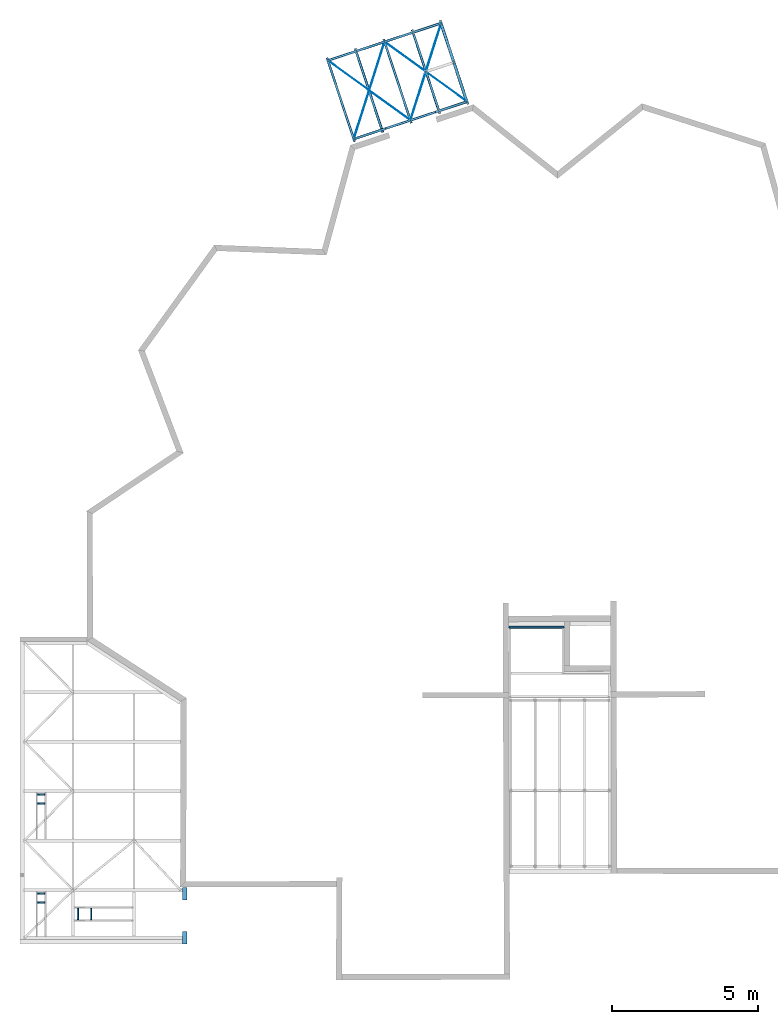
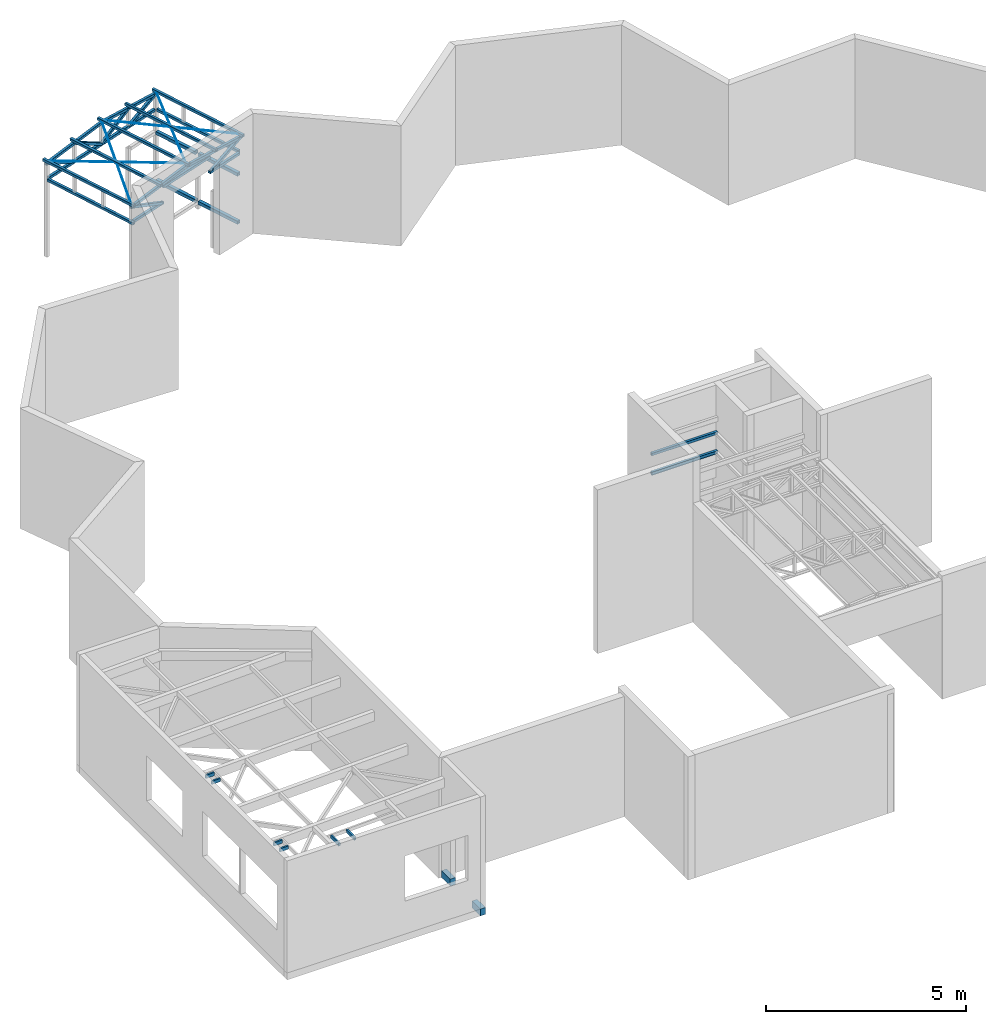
# One storey, part 5 of 9: 40 beams, 40 elements without a shape of their own.
"""IFC2X3 building model written with IfcOpenShell, lengths in millimetres."""

from ifc_helpers import new_model, si_unit, frame, origin_with_axes, origin_2d_with_axis, place, context, subcontext, project, spatial, rectangle, hollow_rectangle, circle, u_section, extrude, material, type_object, element, aggregate, save


model = new_model("IFC2X3")

# Units and contexts
model_context = context("Model", 3, precision=1e-05, world=origin_with_axes())
body_context = subcontext(model_context, "Body", "Model", "MODEL_VIEW")
ifc_project = project(units=[si_unit("LENGTHUNIT", "METRE", prefix="MILLI"), si_unit("AREAUNIT", "SQUARE_METRE"), si_unit("VOLUMEUNIT", "CUBIC_METRE"), si_unit("MASSUNIT", "GRAM", prefix="KILO"), si_unit("TIMEUNIT", "SECOND"), si_unit("PLANEANGLEUNIT", "RADIAN"), si_unit("SOLIDANGLEUNIT", "STERADIAN"), si_unit("THERMODYNAMICTEMPERATUREUNIT", "DEGREE_CELSIUS"), si_unit("LUMINOUSINTENSITYUNIT", "LUMEN")], contexts=[model_context])

# Site, building, storey
site_placement = place(None, origin_with_axes())
site = spatial("IfcSite", under=ifc_project, at=site_placement, Name="01_26-05_PRO_BOULAZAC_CMA-FORMATION", CompositionType="ELEMENT")
building_placement = place(site_placement, origin_with_axes())
building = spatial("IfcBuilding", under=site, at=building_placement, Name="Undefined", CompositionType="ELEMENT")
storey_placement = place(building_placement, origin_with_axes())
storey = spatial("IfcBuildingStorey", under=building, at=storey_placement, Name="Undefined", CompositionType="ELEMENT", Elevation=0.0)

# Assembly, beam
assembly_1_placement = place(storey_placement, origin_with_axes())
assembly_1 = element("IfcElementAssembly", 1, at=assembly_1_placement, inside=storey, Name="OMEGA", AssemblyPlace="NOTDEFINED", PredefinedType="NOTDEFINED")
ifc_material_1 = material(Name="STEEL/S235JR")
beam_type_1 = type_object("IfcBeamType", Name="C40*30*2", PredefinedType="NOTDEFINED")
beam_1_placement = place(assembly_1_placement, frame((19186.8497008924, 16270.0000000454, 2955.0), z_axis=(0.0, 1.0, 0.0), x_axis=(-1.0, 0.0, 0.0)))
beam_1 = element("IfcBeam", 2, at=beam_1_placement, type_object=beam_type_1, material=ifc_material_1, Name="OMEGA", context=body_context, shape_type="SweptSolid", body=[
    extrude(u_section(Depth=40.0, FlangeWidth=30.0, WebThickness=2.0, FlangeThickness=2.0, FilletRadius=3.0, at=origin_2d_with_axis()), frame((1900.00000003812, 0.0, 0.0), z_axis=(-1.0, 0.0, 0.0), x_axis=(0.0, -1.0, 0.0)), (0.0, 0.0, 1.0), 1900.0),
])
aggregate(assembly_1, [beam_1])

assembly_2_placement = place(storey_placement, origin_with_axes())
assembly_2 = element("IfcElementAssembly", 3, at=assembly_2_placement, inside=storey, Name="TREILLIS", AssemblyPlace="NOTDEFINED", PredefinedType="NOTDEFINED")
beam_type_2 = type_object("IfcBeamType", Name="TUBE-C-80*80*3", PredefinedType="NOTDEFINED")
beam_2_placement = place(assembly_2_placement, frame((13074.9501980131, 33411.6666378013, 2360.00000000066), z_axis=(0.0, 0.0, -1.0), x_axis=(-0.949627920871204, -0.313379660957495, 0.0)))
beam_2 = element("IfcBeam", 4, at=beam_2_placement, type_object=beam_type_2, material=ifc_material_1, Name="TREILLIS", context=body_context, shape_type="SweptSolid", body=[
    extrude(hollow_rectangle(XDim=80.0, YDim=80.0, WallThickness=3.0, InnerFilletRadius=3.0, OuterFilletRadius=6.0, at=origin_2d_with_axis()), frame((1114.99999941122, 0.0, 4.54747350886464e-13), z_axis=(-1.0, 0.0, 0.0), x_axis=(0.0, -1.0, 0.0)), (0.0, 0.0, 1.0), 1115.0),
])
aggregate(assembly_2, [beam_2])

assembly_3_placement = place(storey_placement, origin_with_axes())
assembly_3 = element("IfcElementAssembly", 5, at=assembly_3_placement, inside=storey, Name="TREILLIS", AssemblyPlace="NOTDEFINED", PredefinedType="NOTDEFINED")
beam_3_placement = place(assembly_3_placement, frame((14736.7990595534, 33960.081044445, 2840.00000000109), z_axis=(0.0, 0.0, -1.0), x_axis=(-0.949627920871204, -0.313379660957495, 0.0)))
beam_3 = element("IfcBeam", 6, at=beam_3_placement, type_object=beam_type_2, material=ifc_material_1, Name="TREILLIS", context=body_context, shape_type="SweptSolid", body=[
    extrude(hollow_rectangle(XDim=80.0, YDim=80.0, WallThickness=3.0, InnerFilletRadius=3.0, OuterFilletRadius=6.0, at=origin_2d_with_axis()), frame((1749.99999999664, 3.73512332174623e-12, 0.0), z_axis=(-1.0, 0.0, 0.0), x_axis=(0.0, -1.0, 0.0)), (0.0, 0.0, 1.0), 1750.0),
])
aggregate(assembly_3, [beam_3])

assembly_4_placement = place(storey_placement, origin_with_axes())
assembly_4 = element("IfcElementAssembly", 7, at=assembly_4_placement, inside=storey, Name="LISSE", AssemblyPlace="NOTDEFINED", PredefinedType="NOTDEFINED")
beam_4_placement = place(assembly_4_placement, frame((19186.8497008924, 16270.0000000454, 3010.0), z_axis=(0.0, 1.0, 0.0), x_axis=(-1.0, 0.0, 0.0)))
beam_4 = element("IfcBeam", 8, at=beam_4_placement, type_object=beam_type_2, material=ifc_material_1, Name="LISSE", context=body_context, shape_type="SweptSolid", body=[
    extrude(hollow_rectangle(XDim=80.0, YDim=80.0, WallThickness=3.0, InnerFilletRadius=3.0, OuterFilletRadius=6.0, at=origin_2d_with_axis()), frame((1900.00000003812, 0.0, 0.0), z_axis=(-1.0, 0.0, 0.0), x_axis=(0.0, -1.0, 0.0)), (0.0, 0.0, 1.0), 1900.0),
])
aggregate(assembly_4, [beam_4])

assembly_5_placement = place(storey_placement, origin_with_axes())
assembly_5 = element("IfcElementAssembly", 9, at=assembly_5_placement, inside=storey, Name="LISSE", AssemblyPlace="NOTDEFINED", PredefinedType="NOTDEFINED")
beam_5_placement = place(assembly_5_placement, frame((19186.8497008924, 16270.0000000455, 3590.0), z_axis=(0.0, 1.0, 0.0), x_axis=(-1.0, 0.0, 0.0)))
beam_5 = element("IfcBeam", 10, at=beam_5_placement, type_object=beam_type_2, material=ifc_material_1, Name="LISSE", context=body_context, shape_type="SweptSolid", body=[
    extrude(hollow_rectangle(XDim=80.0, YDim=80.0, WallThickness=3.0, InnerFilletRadius=3.0, OuterFilletRadius=6.0, at=origin_2d_with_axis()), frame((1900.00000003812, 0.0, 0.0), z_axis=(-1.0, 0.0, 0.0), x_axis=(0.0, -1.0, 0.0)), (0.0, 0.0, 1.0), 1900.0),
])
aggregate(assembly_5, [beam_5])

assembly_6_placement = place(storey_placement, origin_with_axes())
assembly_6 = element("IfcElementAssembly", 11, at=assembly_6_placement, inside=storey, AssemblyPlace="NOTDEFINED", PredefinedType="NOTDEFINED")
beam_6_placement = place(assembly_6_placement, frame((13962.2437734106, 36800.4252215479, 3000.0773726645), z_axis=(0.0827655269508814, 0.0273128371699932, 0.996194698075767), x_axis=(0.313379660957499, -0.949627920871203, 0.0)))
beam_6 = element("IfcBeam", 12, at=beam_6_placement, type_object=beam_type_2, material=ifc_material_1, Name="PANNE", context=body_context, shape_type="SweptSolid", body=[
    extrude(hollow_rectangle(XDim=80.0, YDim=80.0, WallThickness=3.0, InnerFilletRadius=3.0, OuterFilletRadius=6.0, at=origin_2d_with_axis()), frame((3039.99999977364, -3.63797880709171e-12, 1.05471187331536e-14), z_axis=(-1.0, 0.0, 0.0), x_axis=(0.0, -1.0, 0.0)), (0.0, 0.0, 1.0), 3040.0),
])
aggregate(assembly_6, [beam_6])

assembly_7_placement = place(storey_placement, origin_with_axes())
assembly_7 = element("IfcElementAssembly", 13, at=assembly_7_placement, inside=storey, AssemblyPlace="NOTDEFINED", PredefinedType="NOTDEFINED")
beam_7_placement = place(assembly_7_placement, frame((12006.8330787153, 36155.1346357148, 3000.07737264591), z_axis=(-0.0827655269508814, -0.0273128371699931, 0.996194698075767), x_axis=(0.313379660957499, -0.949627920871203, 0.0)))
beam_7 = element("IfcBeam", 14, at=beam_7_placement, type_object=beam_type_2, material=ifc_material_1, Name="PANNE", context=body_context, shape_type="SweptSolid", body=[
    extrude(hollow_rectangle(XDim=80.0, YDim=80.0, WallThickness=3.0, InnerFilletRadius=3.0, OuterFilletRadius=6.0, at=origin_2d_with_axis()), frame((3039.99999977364, -3.63797880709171e-12, 1.05471187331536e-14), z_axis=(-1.0, 0.0, 0.0), x_axis=(0.0, -1.0, 0.0)), (0.0, 0.0, 1.0), 3040.0),
])
aggregate(assembly_7, [beam_7])

assembly_8_placement = place(storey_placement, origin_with_axes())
assembly_8 = element("IfcElementAssembly", 15, at=assembly_8_placement, inside=storey, Name="LISSE", AssemblyPlace="NOTDEFINED", PredefinedType="NOTDEFINED")
beam_8_placement = place(assembly_8_placement, frame((11084.8081377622, 35692.9074344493, 2360.00000000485), z_axis=(0.0, 0.0, 1.0), x_axis=(0.313379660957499, -0.949627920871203, 0.0)))
beam_8 = element("IfcBeam", 16, at=beam_8_placement, type_object=beam_type_2, material=ifc_material_1, Name="LISSE", context=body_context, shape_type="SweptSolid", body=[
    extrude(hollow_rectangle(XDim=80.0, YDim=80.0, WallThickness=3.0, InnerFilletRadius=3.0, OuterFilletRadius=6.0, at=origin_2d_with_axis()), frame((2870.00000005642, 0.0, 4.54747350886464e-13), z_axis=(-1.0, 0.0, 0.0), x_axis=(0.0, -1.0, 0.0)), (0.0, 0.0, 1.0), 2870.0),
])
aggregate(assembly_8, [beam_8])

assembly_9_placement = place(storey_placement, origin_with_axes())
assembly_9 = element("IfcElementAssembly", 17, at=assembly_9_placement, inside=storey, Name="LISSE", AssemblyPlace="NOTDEFINED", PredefinedType="NOTDEFINED")
beam_9_placement = place(assembly_9_placement, frame((14978.2826130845, 36977.7640453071, 2359.99999999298), z_axis=(0.0, 0.0, 1.0), x_axis=(0.313379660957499, -0.949627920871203, 0.0)))
beam_9 = element("IfcBeam", 18, at=beam_9_placement, type_object=beam_type_2, material=ifc_material_1, Name="LISSE", context=body_context, shape_type="SweptSolid", body=[
    extrude(hollow_rectangle(XDim=80.0, YDim=80.0, WallThickness=3.0, InnerFilletRadius=3.0, OuterFilletRadius=6.0, at=origin_2d_with_axis()), frame((2739.99999997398, 3.63797880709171e-12, 0.0), z_axis=(-1.0, 0.0, 0.0), x_axis=(0.0, -1.0, 0.0)), (0.0, 0.0, 1.0), 2740.0),
])
aggregate(assembly_9, [beam_9])

assembly_10_placement = place(storey_placement, origin_with_axes())
assembly_10 = element("IfcElementAssembly", 19, at=assembly_10_placement, inside=storey, AssemblyPlace="NOTDEFINED", PredefinedType="NOTDEFINED")
beam_10_placement = place(assembly_10_placement, frame((11037.801188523, 35835.3516230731, 2907.1486927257), z_axis=(0.0, 0.0, 1.0), x_axis=(0.313379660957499, -0.949627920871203, 0.0)))
beam_10 = element("IfcBeam", 20, at=beam_10_placement, type_object=beam_type_2, material=ifc_material_1, Name="PANNE", context=body_context, shape_type="SweptSolid", body=[
    extrude(hollow_rectangle(XDim=80.0, YDim=80.0, WallThickness=3.0, InnerFilletRadius=3.0, OuterFilletRadius=6.0, at=origin_2d_with_axis()), frame((3039.99999977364, -3.63797880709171e-12, 1.05471187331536e-14), z_axis=(-1.0, 0.0, 0.0), x_axis=(0.0, -1.0, 0.0)), (0.0, 0.0, 1.0), 3040.0),
])
aggregate(assembly_10, [beam_10])

assembly_11_placement = place(storey_placement, origin_with_axes())
assembly_11 = element("IfcElementAssembly", 21, at=assembly_11_placement, inside=storey, AssemblyPlace="NOTDEFINED", PredefinedType="NOTDEFINED")
beam_11_placement = place(assembly_11_placement, frame((14931.2756637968, 37120.2082339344, 2907.14869271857), z_axis=(0.0, 0.0, 1.0), x_axis=(0.313379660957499, -0.949627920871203, 0.0)))
beam_11 = element("IfcBeam", 22, at=beam_11_placement, type_object=beam_type_2, material=ifc_material_1, Name="PANNE", context=body_context, shape_type="SweptSolid", body=[
    extrude(hollow_rectangle(XDim=80.0, YDim=80.0, WallThickness=3.0, InnerFilletRadius=3.0, OuterFilletRadius=6.0, at=origin_2d_with_axis()), frame((3039.99999977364, -3.63797880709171e-12, 1.05471187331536e-14), z_axis=(-1.0, 0.0, 0.0), x_axis=(0.0, -1.0, 0.0)), (0.0, 0.0, 1.0), 3040.0),
])
aggregate(assembly_11, [beam_11])

assembly_12_placement = place(storey_placement, origin_with_axes())
assembly_12 = element("IfcElementAssembly", 23, at=assembly_12_placement, inside=storey, AssemblyPlace="NOTDEFINED", PredefinedType="NOTDEFINED")
beam_12_placement = place(assembly_12_placement, frame((12984.5384261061, 36477.779928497, 3089.9999999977), z_axis=(0.0, 0.0, 1.0), x_axis=(0.313379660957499, -0.949627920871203, 0.0)))
beam_12 = element("IfcBeam", 24, at=beam_12_placement, type_object=beam_type_2, material=ifc_material_1, Name="PANNE", context=body_context, shape_type="SweptSolid", body=[
    extrude(hollow_rectangle(XDim=80.0, YDim=80.0, WallThickness=3.0, InnerFilletRadius=3.0, OuterFilletRadius=6.0, at=origin_2d_with_axis()), frame((3039.99999977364, -3.63797880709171e-12, 1.05471187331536e-14), z_axis=(-1.0, 0.0, 0.0), x_axis=(0.0, -1.0, 0.0)), (0.0, 0.0, 1.0), 3040.0),
])
aggregate(assembly_12, [beam_12])

assembly_13_placement = place(storey_placement, origin_with_axes())
assembly_13 = element("IfcElementAssembly", 25, at=assembly_13_placement, inside=storey, Name="TREILLIS", AssemblyPlace="NOTDEFINED", PredefinedType="NOTDEFINED")
beam_13_placement = place(assembly_13_placement, frame((11968.6336710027, 33046.5793324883, 2831.37033241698), z_axis=(0.366979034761, 0.12110402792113, 0.922312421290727), x_axis=(0.87585362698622, 0.289033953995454, -0.38644507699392)))
beam_13 = element("IfcBeam", 26, at=beam_13_placement, type_object=beam_type_2, material=ifc_material_1, Name="TREILLIS", context=body_context, shape_type="SweptSolid", body=[
    extrude(hollow_rectangle(XDim=80.0, YDim=80.0, WallThickness=3.0, InnerFilletRadius=3.0, OuterFilletRadius=6.0, at=origin_2d_with_axis()), frame((1219.76021882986, -3.66547297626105e-12, -1.81898940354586e-12), z_axis=(-1.0, 0.0, 0.0), x_axis=(0.0, -1.0, 0.0)), (0.0, 0.0, 1.0), 1219.76),
])
aggregate(assembly_13, [beam_13])

assembly_14_placement = place(storey_placement, origin_with_axes())
assembly_14 = element("IfcElementAssembly", 27, at=assembly_14_placement, inside=storey, Name="TREILLIS", AssemblyPlace="NOTDEFINED", PredefinedType="NOTDEFINED")
beam_14_placement = place(assembly_14_placement, frame((15843.1155876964, 34325.1683499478, 2831.37033241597), z_axis=(-0.366979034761, -0.12110402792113, 0.922312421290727), x_axis=(-0.87585362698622, -0.289033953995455, -0.38644507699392)))
beam_14 = element("IfcBeam", 28, at=beam_14_placement, type_object=beam_type_2, material=ifc_material_1, Name="TREILLIS", context=body_context, shape_type="SweptSolid", body=[
    extrude(hollow_rectangle(XDim=80.0, YDim=80.0, WallThickness=3.0, InnerFilletRadius=3.0, OuterFilletRadius=6.0, at=origin_2d_with_axis()), frame((1219.76021882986, -3.66547297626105e-12, -1.81898940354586e-12), z_axis=(-1.0, 0.0, 0.0), x_axis=(0.0, -1.0, 0.0)), (0.0, 0.0, 1.0), 1219.76),
])
aggregate(assembly_14, [beam_14])

assembly_15_placement = place(storey_placement, origin_with_axes())
assembly_15 = element("IfcElementAssembly", 29, at=assembly_15_placement, inside=storey, Name="TREILLIS", AssemblyPlace="NOTDEFINED", PredefinedType="NOTDEFINED")
beam_15_placement = place(assembly_15_placement, frame((15795.6341918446, 34309.4993664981, 2360.00000000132), z_axis=(0.0, 0.0, -1.0), x_axis=(-0.949627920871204, -0.313379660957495, 0.0)))
beam_15 = element("IfcBeam", 30, at=beam_15_placement, type_object=beam_type_2, material=ifc_material_1, Name="TREILLIS", context=body_context, shape_type="SweptSolid", body=[
    extrude(hollow_rectangle(XDim=80.0, YDim=80.0, WallThickness=3.0, InnerFilletRadius=3.0, OuterFilletRadius=6.0, at=origin_2d_with_axis()), frame((1114.99999941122, 0.0, 4.54747350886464e-13), z_axis=(-1.0, 0.0, 0.0), x_axis=(0.0, -1.0, 0.0)), (0.0, 0.0, 1.0), 1115.0),
])
aggregate(assembly_15, [beam_15])

assembly_16_placement = place(storey_placement, origin_with_axes())
assembly_16 = element("IfcElementAssembly", 31, at=assembly_16_placement, inside=storey, Name="TREILLIS", AssemblyPlace="NOTDEFINED", PredefinedType="NOTDEFINED")
beam_16_placement = place(assembly_16_placement, frame((13902.5640082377, 33684.7813277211, 3010.15221207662), z_axis=(0.313379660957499, -0.949627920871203, 0.0), x_axis=(0.94601429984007, 0.312187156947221, -0.0871557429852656)))
beam_16 = element("IfcBeam", 32, at=beam_16_placement, type_object=beam_type_2, material=ifc_material_1, Name="TREILLIS", context=body_context, shape_type="SweptSolid", body=[
    extrude(hollow_rectangle(XDim=80.0, YDim=80.0, WallThickness=3.0, InnerFilletRadius=3.0, OuterFilletRadius=6.0, at=origin_2d_with_axis()), frame((2097.98346051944, 2.91153692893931e-14, 7.35652285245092e-12), z_axis=(-1.0, 0.0, 0.0), x_axis=(0.0, -1.0, 0.0)), (0.0, 0.0, 1.0), 2097.98),
])
aggregate(assembly_16, [beam_16])

assembly_17_placement = place(storey_placement, origin_with_axes())
assembly_17 = element("IfcElementAssembly", 33, at=assembly_17_placement, inside=storey, Name="TREILLIS", AssemblyPlace="NOTDEFINED", PredefinedType="NOTDEFINED")
beam_17_placement = place(assembly_17_placement, frame((13909.1852503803, 33686.9663546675, 3010.15221207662), z_axis=(-0.313379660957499, 0.949627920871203, 0.0), x_axis=(-0.946014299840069, -0.312187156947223, -0.0871557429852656)))
beam_17 = element("IfcBeam", 34, at=beam_17_placement, type_object=beam_type_2, material=ifc_material_1, Name="TREILLIS", context=body_context, shape_type="SweptSolid", body=[
    extrude(hollow_rectangle(XDim=80.0, YDim=80.0, WallThickness=3.0, InnerFilletRadius=3.0, OuterFilletRadius=6.0, at=origin_2d_with_axis()), frame((2097.98346051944, 2.91153692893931e-14, 7.35652285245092e-12), z_axis=(-1.0, 0.0, 0.0), x_axis=(0.0, -1.0, 0.0)), (0.0, 0.0, 1.0), 2097.98),
])
aggregate(assembly_17, [beam_17])

assembly_18_placement = place(storey_placement, origin_with_axes())
assembly_18 = element("IfcElementAssembly", 35, at=assembly_18_placement, inside=storey, Name="TREILLIS", AssemblyPlace="NOTDEFINED", PredefinedType="NOTDEFINED")
beam_18_placement = place(assembly_18_placement, frame((12052.0040527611, 36064.736780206, 2921.04621281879), z_axis=(0.459400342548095, 0.151603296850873, 0.875195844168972), x_axis=(0.831110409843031, 0.274268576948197, -0.483768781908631)))
beam_18 = element("IfcBeam", 36, at=beam_18_placement, type_object=beam_type_2, material=ifc_material_1, Name="TREILLIS", context=body_context, shape_type="SweptSolid", body=[
    extrude(hollow_rectangle(XDim=80.0, YDim=80.0, WallThickness=3.0, InnerFilletRadius=3.0, OuterFilletRadius=6.0, at=origin_2d_with_axis()), frame((1159.74042477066, 5.90625423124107e-14, -1.8833679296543e-12), z_axis=(-1.0, 0.0, 0.0), x_axis=(0.0, -1.0, 0.0)), (0.0, 0.0, 1.0), 1159.74),
])
aggregate(assembly_18, [beam_18])

assembly_19_placement = place(storey_placement, origin_with_axes())
assembly_19 = element("IfcElementAssembly", 37, at=assembly_19_placement, inside=storey, Name="TREILLIS", AssemblyPlace="NOTDEFINED", PredefinedType="NOTDEFINED")
beam_19_placement = place(assembly_19_placement, frame((11078.6354339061, 35743.5226277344, 2831.37033241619), z_axis=(0.396764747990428, 0.130933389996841, 0.908534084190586), x_axis=(0.862769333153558, 0.284716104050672, -0.417810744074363)))
beam_19 = element("IfcBeam", 38, at=beam_19_placement, type_object=beam_type_2, material=ifc_material_1, Name="TREILLIS", context=body_context, shape_type="SweptSolid", body=[
    extrude(hollow_rectangle(XDim=80.0, YDim=80.0, WallThickness=3.0, InnerFilletRadius=3.0, OuterFilletRadius=6.0, at=origin_2d_with_axis()), frame((1128.19102606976, 3.54185838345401e-12, 0.0), z_axis=(-1.0, 0.0, 0.0), x_axis=(0.0, -1.0, 0.0)), (0.0, 0.0, 1.0), 1128.19),
])
aggregate(assembly_19, [beam_19])

assembly_20_placement = place(storey_placement, origin_with_axes())
assembly_20 = element("IfcElementAssembly", 39, at=assembly_20_placement, inside=storey, Name="TREILLIS", AssemblyPlace="NOTDEFINED", PredefinedType="NOTDEFINED")
beam_20_placement = place(assembly_20_placement, frame((13979.7487317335, 36700.8974927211, 2921.04621281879), z_axis=(-0.459400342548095, -0.151603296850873, 0.875195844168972), x_axis=(-0.83111040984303, -0.274268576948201, -0.483768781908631)))
beam_20 = element("IfcBeam", 40, at=beam_20_placement, type_object=beam_type_2, material=ifc_material_1, Name="TREILLIS", context=body_context, shape_type="SweptSolid", body=[
    extrude(hollow_rectangle(XDim=80.0, YDim=80.0, WallThickness=3.0, InnerFilletRadius=3.0, OuterFilletRadius=6.0, at=origin_2d_with_axis()), frame((1159.74042477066, 5.90625423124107e-14, -1.8833679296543e-12), z_axis=(-1.0, 0.0, 0.0), x_axis=(0.0, -1.0, 0.0)), (0.0, 0.0, 1.0), 1159.74),
])
aggregate(assembly_20, [beam_20])

assembly_21_placement = place(storey_placement, origin_with_axes())
assembly_21 = element("IfcElementAssembly", 41, at=assembly_21_placement, inside=storey, Name="TREILLIS", AssemblyPlace="NOTDEFINED", PredefinedType="NOTDEFINED")
beam_21_placement = place(assembly_21_placement, frame((14953.1173505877, 37022.1116451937, 2831.37033241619), z_axis=(-0.396764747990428, -0.130933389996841, 0.908534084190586), x_axis=(-0.862769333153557, -0.284716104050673, -0.417810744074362)))
beam_21 = element("IfcBeam", 42, at=beam_21_placement, type_object=beam_type_2, material=ifc_material_1, Name="TREILLIS", context=body_context, shape_type="SweptSolid", body=[
    extrude(hollow_rectangle(XDim=80.0, YDim=80.0, WallThickness=3.0, InnerFilletRadius=3.0, OuterFilletRadius=6.0, at=origin_2d_with_axis()), frame((1128.19102606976, 3.54185838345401e-12, 0.0), z_axis=(-1.0, 0.0, 0.0), x_axis=(0.0, -1.0, 0.0)), (0.0, 0.0, 1.0), 1128.19),
])
aggregate(assembly_21, [beam_21])

assembly_22_placement = place(storey_placement, origin_with_axes())
assembly_22 = element("IfcElementAssembly", 43, at=assembly_22_placement, inside=storey, Name="TREILLIS", AssemblyPlace="NOTDEFINED", PredefinedType="NOTDEFINED")
beam_22_placement = place(assembly_22_placement, frame((14905.6359547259, 37006.4426617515, 2360.0000000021), z_axis=(0.0, 0.0, -1.0), x_axis=(-0.949627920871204, -0.313379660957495, 0.0)))
beam_22 = element("IfcBeam", 44, at=beam_22_placement, type_object=beam_type_2, material=ifc_material_1, Name="TREILLIS", context=body_context, shape_type="SweptSolid", body=[
    extrude(hollow_rectangle(XDim=80.0, YDim=80.0, WallThickness=3.0, InnerFilletRadius=3.0, OuterFilletRadius=6.0, at=origin_2d_with_axis()), frame((3979.99999993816, 0.0, 0.0), z_axis=(-1.0, 0.0, 0.0), x_axis=(0.0, -1.0, 0.0)), (0.0, 0.0, 1.0), 3980.0),
])
aggregate(assembly_22, [beam_22])

assembly_23_placement = place(storey_placement, origin_with_axes())
assembly_23 = element("IfcElementAssembly", 45, at=assembly_23_placement, inside=storey, Name="TREILLIS", AssemblyPlace="NOTDEFINED", PredefinedType="NOTDEFINED")
beam_23_placement = place(assembly_23_placement, frame((13012.5657711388, 36381.7246229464, 3010.15221207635), z_axis=(0.313379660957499, -0.949627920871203, 0.0), x_axis=(0.94601429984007, 0.312187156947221, -0.0871557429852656)))
beam_23 = element("IfcBeam", 46, at=beam_23_placement, type_object=beam_type_2, material=ifc_material_1, Name="TREILLIS", context=body_context, shape_type="SweptSolid", body=[
    extrude(hollow_rectangle(XDim=80.0, YDim=80.0, WallThickness=3.0, InnerFilletRadius=3.0, OuterFilletRadius=6.0, at=origin_2d_with_axis()), frame((2097.98346051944, 2.91153692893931e-14, 7.35652285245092e-12), z_axis=(-1.0, 0.0, 0.0), x_axis=(0.0, -1.0, 0.0)), (0.0, 0.0, 1.0), 2097.98),
])
aggregate(assembly_23, [beam_23])

assembly_24_placement = place(storey_placement, origin_with_axes())
assembly_24 = element("IfcElementAssembly", 47, at=assembly_24_placement, inside=storey, Name="TREILLIS", AssemblyPlace="NOTDEFINED", PredefinedType="NOTDEFINED")
beam_24_placement = place(assembly_24_placement, frame((13019.1870132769, 36383.9096499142, 3010.15221207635), z_axis=(-0.313379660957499, 0.949627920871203, 0.0), x_axis=(-0.946014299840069, -0.312187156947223, -0.0871557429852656)))
beam_24 = element("IfcBeam", 48, at=beam_24_placement, type_object=beam_type_2, material=ifc_material_1, Name="TREILLIS", context=body_context, shape_type="SweptSolid", body=[
    extrude(hollow_rectangle(XDim=80.0, YDim=80.0, WallThickness=3.0, InnerFilletRadius=3.0, OuterFilletRadius=6.0, at=origin_2d_with_axis()), frame((2097.98346051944, 2.91153692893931e-14, 7.35652285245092e-12), z_axis=(-1.0, 0.0, 0.0), x_axis=(0.0, -1.0, 0.0)), (0.0, 0.0, 1.0), 2097.98),
])
aggregate(assembly_24, [beam_24])

assembly_25_placement = place(storey_placement, origin_with_axes())
assembly_25 = element("IfcElementAssembly", 49, at=assembly_25_placement, inside=storey, AssemblyPlace="NOTDEFINED", PredefinedType="NOTDEFINED")
ifc_material_2 = material(Name="TIMBER/C24")
beam_type_3 = type_object("IfcBeamType", Name="50*100", PredefinedType="NOTDEFINED")
beam_25_placement = place(assembly_25_placement, frame((1339.31861480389, 6819.07251771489, 2904.49108265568), z_axis=(0.0, 1.0, 0.0), x_axis=(-0.999390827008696, 0.0, -0.0348994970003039)))
beam_25 = element("IfcBeam", 50, at=beam_25_placement, type_object=beam_type_3, material=ifc_material_2, Name="CHEVETRE", context=body_context, shape_type="SweptSolid", body=[
    extrude(rectangle(XDim=100.0, YDim=50.0, at=origin_2d_with_axis()), frame((249.999999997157, -4.54747350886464e-13, 9.09494701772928e-13), z_axis=(-1.0, 0.0, 0.0), x_axis=(0.0, -1.0, 0.0)), (0.0, 0.0, 1.0), 250.0),
])
aggregate(assembly_25, [beam_25])

assembly_26_placement = place(storey_placement, origin_with_axes())
assembly_26 = element("IfcElementAssembly", 51, at=assembly_26_placement, inside=storey, AssemblyPlace="NOTDEFINED", PredefinedType="NOTDEFINED")
beam_26_placement = place(assembly_26_placement, frame((1089.47090804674, 7119.0725177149, 2895.76620840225), z_axis=(0.0, -1.0, 0.0), x_axis=(0.999390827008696, 0.0, 0.0348994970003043)))
beam_26 = element("IfcBeam", 52, at=beam_26_placement, type_object=beam_type_3, material=ifc_material_2, Name="CHEVETRE", context=body_context, shape_type="SweptSolid", body=[
    extrude(rectangle(XDim=100.0, YDim=50.0, at=origin_2d_with_axis()), frame((249.999999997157, -4.54747350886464e-13, 9.09494701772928e-13), z_axis=(-1.0, 0.0, 0.0), x_axis=(0.0, -1.0, 0.0)), (0.0, 0.0, 1.0), 250.0),
])
aggregate(assembly_26, [beam_26])

assembly_27_placement = place(storey_placement, origin_with_axes())
assembly_27 = element("IfcElementAssembly", 53, at=assembly_27_placement, inside=storey, AssemblyPlace="NOTDEFINED", PredefinedType="NOTDEFINED")
beam_27_placement = place(assembly_27_placement, frame((1339.31861480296, 10219.0725177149, 2904.49108265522), z_axis=(0.0, 1.0, 0.0), x_axis=(-0.999390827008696, 0.0, -0.0348994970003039)))
beam_27 = element("IfcBeam", 54, at=beam_27_placement, type_object=beam_type_3, material=ifc_material_2, Name="CHEVETRE", context=body_context, shape_type="SweptSolid", body=[
    extrude(rectangle(XDim=100.0, YDim=50.0, at=origin_2d_with_axis()), frame((249.999999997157, -4.54747350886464e-13, 9.09494701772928e-13), z_axis=(-1.0, 0.0, 0.0), x_axis=(0.0, -1.0, 0.0)), (0.0, 0.0, 1.0), 250.0),
])
aggregate(assembly_27, [beam_27])

assembly_28_placement = place(storey_placement, origin_with_axes())
assembly_28 = element("IfcElementAssembly", 55, at=assembly_28_placement, inside=storey, AssemblyPlace="NOTDEFINED", PredefinedType="NOTDEFINED")
beam_28_placement = place(assembly_28_placement, frame((1089.4709080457, 10519.0725177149, 2895.7662084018), z_axis=(0.0, -1.0, 0.0), x_axis=(0.999390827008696, 0.0, 0.0348994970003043)))
beam_28 = element("IfcBeam", 56, at=beam_28_placement, type_object=beam_type_3, material=ifc_material_2, Name="CHEVETRE", context=body_context, shape_type="SweptSolid", body=[
    extrude(rectangle(XDim=100.0, YDim=50.0, at=origin_2d_with_axis()), frame((249.999999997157, -4.54747350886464e-13, 9.09494701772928e-13), z_axis=(-1.0, 0.0, 0.0), x_axis=(0.0, -1.0, 0.0)), (0.0, 0.0, 1.0), 250.0),
])
aggregate(assembly_28, [beam_28])

assembly_29_placement = place(storey_placement, origin_with_axes())
assembly_29 = element("IfcElementAssembly", 57, at=assembly_29_placement, inside=storey, AssemblyPlace="NOTDEFINED", PredefinedType="NOTDEFINED")
beam_29_placement = place(assembly_29_placement, frame((2935.00393438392, 6624.07251771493, 2960.21364236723), z_axis=(-0.999390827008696, 0.0, -0.0348994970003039), x_axis=(0.0, -1.0, 0.0)))
beam_29 = element("IfcBeam", 58, at=beam_29_placement, type_object=beam_type_3, material=ifc_material_2, Name="CHEVETRE", context=body_context, shape_type="SweptSolid", body=[
    extrude(rectangle(XDim=100.0, YDim=50.0, at=origin_2d_with_axis()), frame((400.000000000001, 0.0, 4.54747350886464e-13), z_axis=(-1.0, 0.0, 0.0), x_axis=(0.0, -1.0, 0.0)), (0.0, 0.0, 1.0), 400.0),
])
aggregate(assembly_29, [beam_29])

assembly_30_placement = place(storey_placement, origin_with_axes())
assembly_30 = element("IfcElementAssembly", 59, at=assembly_30_placement, inside=storey, AssemblyPlace="NOTDEFINED", PredefinedType="NOTDEFINED")
beam_30_placement = place(assembly_30_placement, frame((2485.27806223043, 6224.07251771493, 2944.50886871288), z_axis=(0.999390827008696, 0.0, 0.0348994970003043), x_axis=(0.0, 1.0, 0.0)))
beam_30 = element("IfcBeam", 60, at=beam_30_placement, type_object=beam_type_3, material=ifc_material_2, Name="CHEVETRE", context=body_context, shape_type="SweptSolid", body=[
    extrude(rectangle(XDim=100.0, YDim=50.0, at=origin_2d_with_axis()), frame((400.000000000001, 0.0, 4.54747350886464e-13), z_axis=(-1.0, 0.0, 0.0), x_axis=(0.0, -1.0, 0.0)), (0.0, 0.0, 1.0), 400.0),
])
aggregate(assembly_30, [beam_30])

assembly_31_placement = place(storey_placement, origin_with_axes())
assembly_31 = element("IfcElementAssembly", 61, at=assembly_31_placement, inside=storey, Name="TUBE", AssemblyPlace="NOTDEFINED", PredefinedType="NOTDEFINED")
beam_type_4 = type_object("IfcBeamType", Name="TUBE-C-100*100*3", PredefinedType="NOTDEFINED")
beam_31_placement = place(assembly_31_placement, frame((15382.4474863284, 35721.1213932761, 200.000000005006), z_axis=(0.949627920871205, 0.313379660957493, 0.0), x_axis=(-0.313379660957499, 0.949627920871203, 0.0)))
beam_31 = element("IfcBeam", 62, at=beam_31_placement, type_object=beam_type_4, material=ifc_material_1, Name="TUBE", context=body_context, shape_type="SweptSolid", body=[
    extrude(hollow_rectangle(XDim=100.0, YDim=100.0, WallThickness=3.0, InnerFilletRadius=3.0, OuterFilletRadius=6.0, at=origin_2d_with_axis()), frame((1319.99999995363, 0.0, 0.0), z_axis=(-1.0, 0.0, 0.0), x_axis=(0.0, -1.0, 0.0)), (0.0, 0.0, 1.0), 1320.0),
])
aggregate(assembly_31, [beam_31])

assembly_32_placement = place(storey_placement, origin_with_axes())
assembly_32 = element("IfcElementAssembly", 63, at=assembly_32_placement, inside=storey, Name="TUBE", AssemblyPlace="NOTDEFINED", PredefinedType="NOTDEFINED")
beam_32_placement = place(assembly_32_placement, frame((15827.4466048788, 34372.649745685, 200.000000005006), z_axis=(0.949627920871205, 0.313379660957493, 0.0), x_axis=(-0.313379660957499, 0.949627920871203, 0.0)))
beam_32 = element("IfcBeam", 64, at=beam_32_placement, type_object=beam_type_4, material=ifc_material_1, Name="TUBE", context=body_context, shape_type="SweptSolid", body=[
    extrude(hollow_rectangle(XDim=100.0, YDim=100.0, WallThickness=3.0, InnerFilletRadius=3.0, OuterFilletRadius=6.0, at=origin_2d_with_axis()), frame((1319.99999995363, 0.0, 0.0), z_axis=(-1.0, 0.0, 0.0), x_axis=(0.0, -1.0, 0.0)), (0.0, 0.0, 1.0), 1320.0),
])
aggregate(assembly_32, [beam_32])

assembly_33_placement = place(storey_placement, origin_with_axes())
assembly_33 = element("IfcElementAssembly", 65, at=assembly_33_placement, inside=storey, Name="TUBE", AssemblyPlace="NOTDEFINED", PredefinedType="NOTDEFINED")
beam_33_placement = place(assembly_33_placement, frame((15382.4474863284, 35721.1213932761, 1670.00000000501), z_axis=(0.949627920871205, 0.313379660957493, 0.0), x_axis=(-0.313379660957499, 0.949627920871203, 0.0)))
beam_33 = element("IfcBeam", 66, at=beam_33_placement, type_object=beam_type_4, material=ifc_material_1, Name="TUBE", context=body_context, shape_type="SweptSolid", body=[
    extrude(hollow_rectangle(XDim=100.0, YDim=100.0, WallThickness=3.0, InnerFilletRadius=3.0, OuterFilletRadius=6.0, at=origin_2d_with_axis()), frame((1319.99999995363, 0.0, 0.0), z_axis=(-1.0, 0.0, 0.0), x_axis=(0.0, -1.0, 0.0)), (0.0, 0.0, 1.0), 1320.0),
])
aggregate(assembly_33, [beam_33])

assembly_34_placement = place(storey_placement, origin_with_axes())
assembly_34 = element("IfcElementAssembly", 67, at=assembly_34_placement, inside=storey, Name="TUBE", AssemblyPlace="NOTDEFINED", PredefinedType="NOTDEFINED")
beam_34_placement = place(assembly_34_placement, frame((15827.4466048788, 34372.649745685, 1670.00000000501), z_axis=(0.949627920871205, 0.313379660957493, 0.0), x_axis=(-0.313379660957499, 0.949627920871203, 0.0)))
beam_34 = element("IfcBeam", 68, at=beam_34_placement, type_object=beam_type_4, material=ifc_material_1, Name="TUBE", context=body_context, shape_type="SweptSolid", body=[
    extrude(hollow_rectangle(XDim=100.0, YDim=100.0, WallThickness=3.0, InnerFilletRadius=3.0, OuterFilletRadius=6.0, at=origin_2d_with_axis()), frame((1319.99999995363, 0.0, 0.0), z_axis=(-1.0, 0.0, 0.0), x_axis=(0.0, -1.0, 0.0)), (0.0, 0.0, 1.0), 1320.0),
])
aggregate(assembly_34, [beam_34])

assembly_35_placement = place(storey_placement, origin_with_axes())
assembly_35 = element("IfcElementAssembly", 69, at=assembly_35_placement, inside=storey, AssemblyPlace="NOTDEFINED", PredefinedType="NOTDEFINED")
beam_type_5 = type_object("IfcBeamType", Name="D20", PredefinedType="NOTDEFINED")
beam_35_placement = place(assembly_35_placement, frame((11959.1338198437, 33043.446097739, 2907.14869272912), z_axis=(0.0830650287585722, 0.0282591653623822, -0.996143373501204), x_axis=(0.301293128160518, 0.952105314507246, 0.0521336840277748)))
beam_35 = element("IfcBeam", 70, at=beam_35_placement, type_object=beam_type_5, material=ifc_material_1, Name="TIRANT", context=body_context, shape_type="SweptSolid", body=[
    extrude(circle(Radius=10.0, at=origin_2d_with_axis()), frame((3507.35441525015, 1.72699118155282e-12, -2.43371601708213e-14), z_axis=(-1.0, 0.0, 0.0), x_axis=(0.0, -1.0, 0.0)), (0.0, 0.0, 1.0), 3507.35),
])
aggregate(assembly_35, [beam_35])

assembly_36_placement = place(storey_placement, origin_with_axes())
assembly_36 = element("IfcElementAssembly", 71, at=assembly_36_placement, inside=storey, AssemblyPlace="NOTDEFINED", PredefinedType="NOTDEFINED")
beam_36_placement = place(assembly_36_placement, frame((13905.8715755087, 33685.8728334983, 3090.00000000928), z_axis=(0.0835695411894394, 0.0267305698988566, -0.996143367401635), x_axis=(-0.808795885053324, 0.585774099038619, -0.0521336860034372)))
beam_36 = element("IfcBeam", 72, at=beam_36_placement, type_object=beam_type_5, material=ifc_material_1, Name="TIRANT", context=body_context, shape_type="SweptSolid", body=[
    extrude(circle(Radius=10.0, at=origin_2d_with_axis()), frame((3507.35430296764, -6.82572016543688e-12, 4.86743187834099e-14), z_axis=(-1.0, 0.0, 0.0), x_axis=(0.0, -1.0, 0.0)), (0.0, 0.0, 1.0), 3507.35),
])
aggregate(assembly_36, [beam_36])

assembly_37_placement = place(storey_placement, origin_with_axes())
assembly_37 = element("IfcElementAssembly", 73, at=assembly_37_placement, inside=storey, AssemblyPlace="NOTDEFINED", PredefinedType="NOTDEFINED")
beam_37_placement = place(assembly_37_placement, frame((15852.6118669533, 34328.3021466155, 2907.1486927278), z_axis=(-0.0835694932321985, -0.0267306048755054, -0.996143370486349), x_axis=(-0.808796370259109, 0.58577342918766, 0.0521336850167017)))
beam_37 = element("IfcBeam", 74, at=beam_37_placement, type_object=beam_type_5, material=ifc_material_1, Name="TIRANT", context=body_context, shape_type="SweptSolid", body=[
    extrude(circle(Radius=10.0, at=origin_2d_with_axis()), frame((3507.35435867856, -7.62428321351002e-12, 9.33831861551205e-13), z_axis=(-1.0, 0.0, 0.0), x_axis=(0.0, -1.0, 0.0)), (0.0, 0.0, 1.0), 3507.35),
])
aggregate(assembly_37, [beam_37])

assembly_38_placement = place(storey_placement, origin_with_axes())
assembly_38 = element("IfcElementAssembly", 75, at=assembly_38_placement, inside=storey, AssemblyPlace="NOTDEFINED", PredefinedType="NOTDEFINED")
beam_38_placement = place(assembly_38_placement, frame((13905.8746292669, 33685.8738412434, 3090.00000000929), z_axis=(-0.0830650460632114, -0.0282592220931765, -0.996143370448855), x_axis=(0.301292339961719, 0.952105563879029, -0.0521336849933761)))
beam_38 = element("IfcBeam", 76, at=beam_38_placement, type_object=beam_type_5, material=ifc_material_1, Name="TIRANT", context=body_context, shape_type="SweptSolid", body=[
    extrude(circle(Radius=10.0, at=origin_2d_with_axis()), frame((3507.35435867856, -7.62428321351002e-12, 9.33831861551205e-13), z_axis=(-1.0, 0.0, 0.0), x_axis=(0.0, -1.0, 0.0)), (0.0, 0.0, 1.0), 3507.35),
])
aggregate(assembly_38, [beam_38])

assembly_39_placement = place(storey_placement, origin_with_axes())
assembly_39 = element("IfcElementAssembly", 77, at=assembly_39_placement, inside=storey, Name="POUTRE", AssemblyPlace="NOTDEFINED", PredefinedType="NOTDEFINED")
ifc_material_3 = material(Name="CONCRETE/C25/30")
beam_type_6 = type_object("IfcBeamType", Name="150*210", PredefinedType="NOTDEFINED")
beam_39_placement = place(assembly_39_placement, frame((6148.00006103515, 6904.07251771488, 104.999963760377), z_axis=(1.0, 0.0, 0.0), x_axis=(0.0, 1.0, 0.0)))
beam_39 = element("IfcBeam", 78, at=beam_39_placement, type_object=beam_type_6, material=ifc_material_3, Name="POUTRE", context=body_context, shape_type="SweptSolid", body=[
    extrude(rectangle(XDim=210.0, YDim=150.0, at=origin_2d_with_axis()), frame((435.000000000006, 0.0, 0.0), z_axis=(-1.0, 0.0, 0.0), x_axis=(0.0, -1.0, 0.0)), (0.0, 0.0, 1.0), 435.0),
])
aggregate(assembly_39, [beam_39])

assembly_40_placement = place(storey_placement, origin_with_axes())
assembly_40 = element("IfcElementAssembly", 79, at=assembly_40_placement, inside=storey, Name="POUTRE", AssemblyPlace="NOTDEFINED", PredefinedType="NOTDEFINED")
beam_40_placement = place(assembly_40_placement, frame((6148.00006103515, 5399.07251771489, 104.999963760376), z_axis=(1.0, 0.0, 0.0), x_axis=(0.0, 1.0, 0.0)))
beam_40 = element("IfcBeam", 80, at=beam_40_placement, type_object=beam_type_6, material=ifc_material_3, Name="POUTRE", context=body_context, shape_type="SweptSolid", body=[
    extrude(rectangle(XDim=210.0, YDim=150.0, at=origin_2d_with_axis()), frame((414.999999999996, 0.0, 0.0), z_axis=(-1.0, 0.0, 0.0), x_axis=(0.0, -1.0, 0.0)), (0.0, 0.0, 1.0), 415.0),
])
aggregate(assembly_40, [beam_40])

save(model, "model.ifc")
